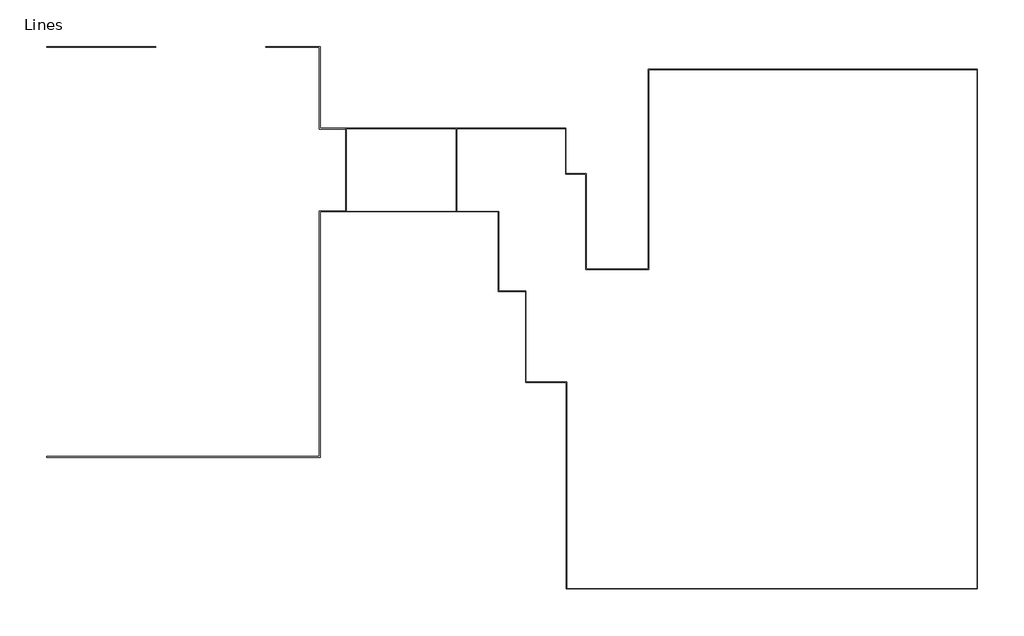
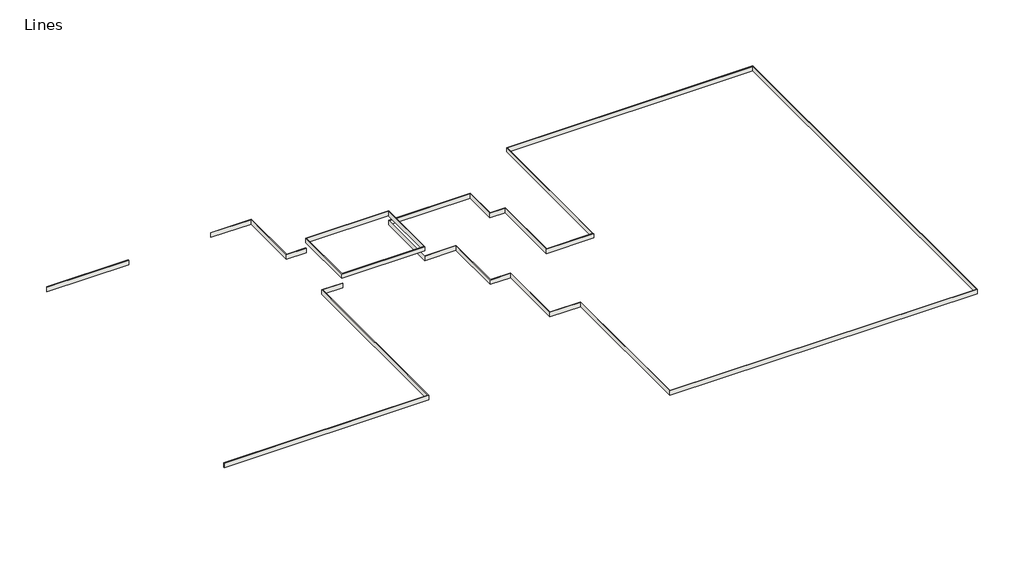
# One storey: 1 slab.
"""IFC4 building model written with IfcOpenShell, lengths in millimetres."""

from ifc_helpers import new_model, si_unit, origin, place, context, project, spatial, transform, mapped, element, save
from components import skirt_skirt_by_house_99c711df

model = new_model("IFC4")

# Units and contexts
model_context = context("Model", 3, world=origin())
ifc_project = project(units=[si_unit("LENGTHUNIT", "METRE", prefix="MILLI")], contexts=[model_context])

# Site, building, storey
site = spatial("IfcSite", under=ifc_project)
building = spatial("IfcBuilding", under=site)
storey = spatial("IfcBuildingStorey", under=building, Name="Lines", Elevation=505.968)

# Slab
placement = place(None, origin())
skirt_skirt_by_house_shape = skirt_skirt_by_house_99c711df(model_context)
element("IfcSlab", 1, ObjectType="Skirt : Skirt By House", at=placement, inside=storey, context=model_context, shape_type="MappedRepresentation", body=[
    mapped(skirt_skirt_by_house_shape, transform((0.0, 0.0, 0.0), x_axis=(1.0, 0.0, 0.0), y_axis=(0.0, 1.0, 0.0), z_axis=(0.0, 0.0, 1.0))),
])

save(model, "model.ifc")
